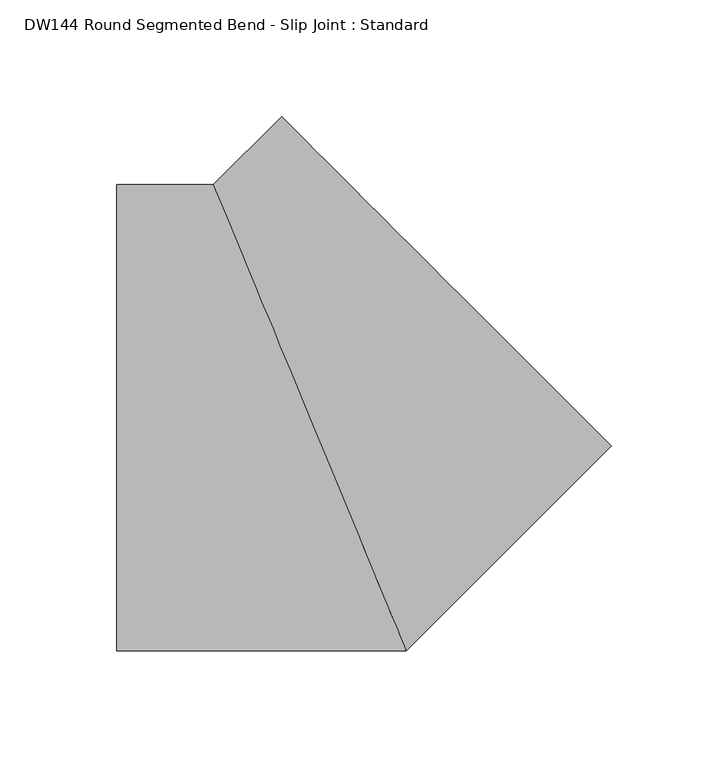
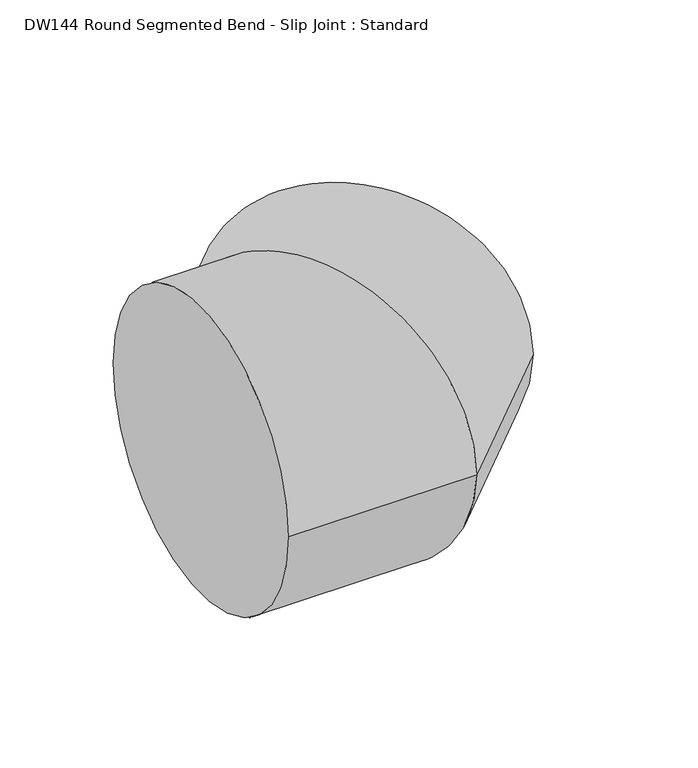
"""IFC4 building model written with IfcOpenShell, lengths in millimetres: duct fitting geometry, DW144 Round Segmented Bend - Slip Joint : Standard."""

from ifc_helpers import new_model, si_unit, frame, origin, place, context, project, spatial, circle_curve, ellipse_curve, source, transform, mapped, element, save
from ifc_brep_helpers import plane_surface, cylinder_surface, advanced_brep


def dw144_round_segmented_bend_slip_joint_standard_55afcd91(model_context):
    return source(origin(), model_context, "Body", "AdvancedBrep", [
        advanced_brep(
        [(-82.8427125, -100.0, 0.0), (-82.8427125, 100.0, 0.0), (41.4213562, -100.0, 0.0), (-41.4213562, 100.0, 0.0), (129.2893219, -12.1320344, 0.0), (-12.1320344, 129.2893219, 0.0)],
        [
            (0, 1, circle_curve(frame((-82.8427125, 0.0, 0.0), z_axis=(-1.0, 0.0, 0.0), x_axis=(0.0, 1.0, 0.0)), 100.0)),
            (1, 0, circle_curve(frame((-82.8427125, 0.0, 0.0), z_axis=(-1.0, 0.0, 0.0), x_axis=(0.0, 1.0, 0.0)), 100.0)),
            (0, 2),
            (2, 3, ellipse_curve(frame((0.0, 0.0, 0.0), z_axis=(-0.923879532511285, -0.3826834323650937, 0.0), x_axis=(-0.3826834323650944, 0.9238795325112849, 0.0)), 108.23922, 100.0)),
            (3, 1),
            (3, 2, ellipse_curve(frame((0.0, 0.0, 0.0), z_axis=(-0.923879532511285, -0.3826834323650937, 0.0), x_axis=(-0.3826834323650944, 0.9238795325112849, 0.0)), 108.23922, 100.0)),
            (2, 4),
            (4, 5, circle_curve(frame((58.5786438, 58.5786438, 0.0), z_axis=(-0.7071067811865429, -0.7071067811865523, 0.0), x_axis=(-0.7071067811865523, 0.7071067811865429, 0.0)), 100.0)),
            (5, 3),
            (5, 4, circle_curve(frame((58.5786438, 58.5786438, 0.0), z_axis=(-0.7071067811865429, -0.7071067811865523, 0.0), x_axis=(-0.7071067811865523, 0.7071067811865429, 0.0)), 100.0)),
        ],
        [
            plane_surface(frame((-82.8427125, 0.0, 0.0), z_axis=(-1.0, 0.0, 0.0), x_axis=(0.0, 0.0, 1.0))),
            cylinder_surface(frame((-82.8427125, 0.0, 0.0), z_axis=(-1.0, 0.0, 0.0), x_axis=(0.0, 1.0, 0.0)), 100.0),
            cylinder_surface(frame((0.0, 0.0, 0.0), z_axis=(-0.7071067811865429, -0.7071067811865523, 0.0), x_axis=(-0.7071067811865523, 0.7071067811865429, 0.0)), 100.0),
            plane_surface(frame((58.5786438, 58.5786438, 0.0), z_axis=(0.7071067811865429, 0.7071067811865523, 0.0), x_axis=(0.0, 0.0, 1.0))),
        ],
        [
            (0, [[1, 2]]),
            (1, [[-1, 3, 4, 5]]),
            (1, [[-2, -5, 6, -3]]),
            (2, [[-4, 7, 8, 9]]),
            (2, [[-6, -9, 10, -7]]),
            (3, [[-10, -8]]),
        ],
    ),
    ])


if __name__ == "__main__":
    model = new_model("IFC4")
    model_context = context("Model", 3, world=origin())
    ifc_project = project(units=[si_unit("LENGTHUNIT", "METRE", prefix="MILLI")], contexts=[model_context])
    site = spatial("IfcSite", under=ifc_project)
    building = spatial("IfcBuilding", under=site)
    placement = place(None, origin())
    dw144_round_segmented_bend_slip_joint_standard_shape = dw144_round_segmented_bend_slip_joint_standard_55afcd91(model_context)
    element("IfcDuctFitting", 1, ObjectType="DW144 Round Segmented Bend - Slip Joint : Standard", at=placement, inside=building, context=model_context, shape_type="MappedRepresentation", body=[
        mapped(dw144_round_segmented_bend_slip_joint_standard_shape, transform((0.0, 0.0, 0.0), x_axis=(1.0, 0.0, 0.0), y_axis=(0.0, 1.0, 0.0), z_axis=(0.0, 0.0, 1.0))),
    ])
    save(model, "model.ifc")
